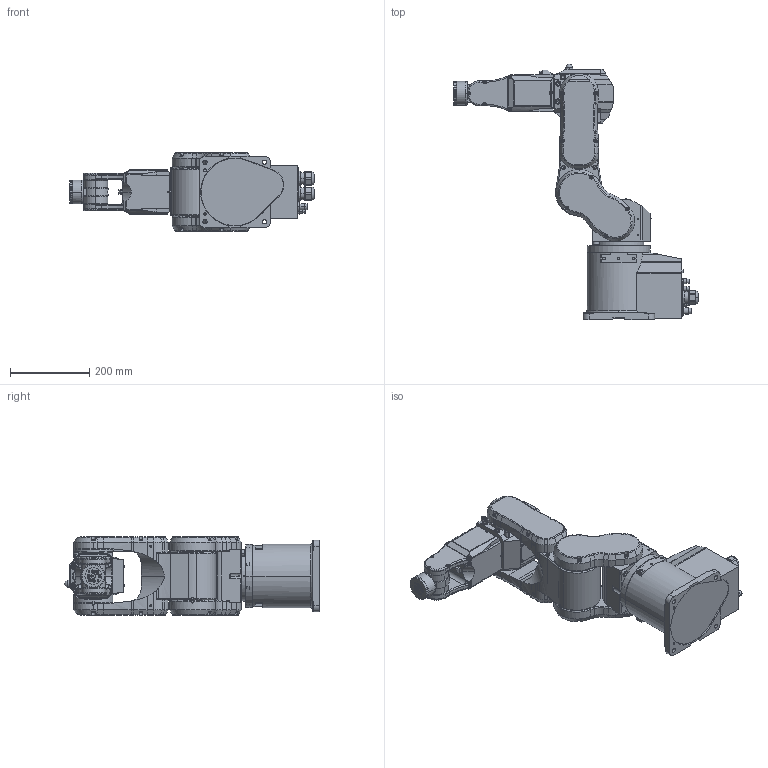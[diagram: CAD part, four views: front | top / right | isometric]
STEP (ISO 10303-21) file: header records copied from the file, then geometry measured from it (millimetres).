
FILE_DESCRIPTION( ( '' ), '1' );
FILE_NAME( '//expscmdclustefs.cadenas.external/client_exchange/iodir/jobs/output/wkb51538842_no0/STEP/C3_A601CW_without_Plate__2_14b.stp', '2012-11-23T10:17:47', ( '' ), ( '' ), ' ', ' ', ' ' );
FILE_SCHEMA( ( 'automotive_design' ) );
Length unit declared in the file: millimetre
Products named in the file (7): 1; 2; 3; 4; 5; 6; 7
Bounding box: 614.5 x 643.24 x 198 mm (x, y, z)
Volume: 16208110.6 mm3; surface area: 894221.1 mm2
Topology: 7 solids, 7 shells, 2399 faces, 5988 edges, 3821 vertices
Faces by surface type: plane 1140, cylinder 855, cone 274, torus 128, sphere 2
Entity records: 142535 total; most frequent: CARTESIAN_POINT 16129, DIRECTION 12621, STYLED_ITEM 12154, PRESENTATION_STYLE_ASSIGNMENT 12154, COLOUR_RGB 12154, ORIENTED_EDGE 11854, EDGE_CURVE 5927, CURVE_STYLE 5927
